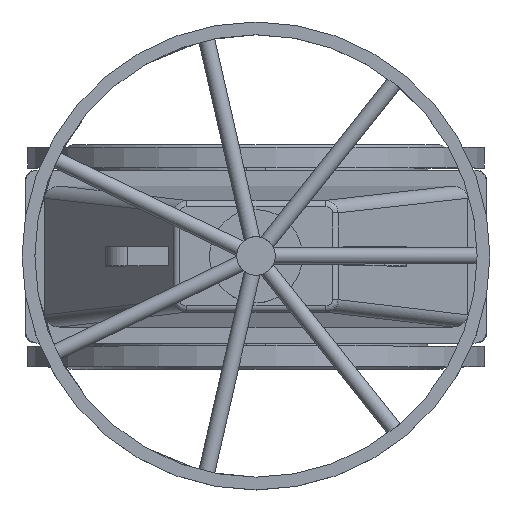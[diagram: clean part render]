
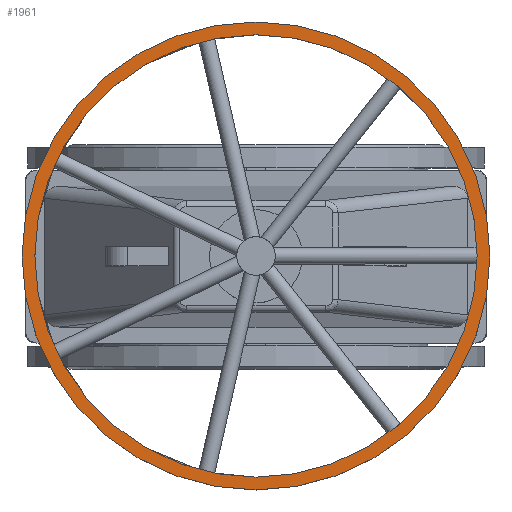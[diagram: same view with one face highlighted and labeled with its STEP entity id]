
A CAD part, top view. The second image highlights one B-rep face of the part: STEP entity #1961.
In plain terms, the highlighted planar face has unit normal (0, 0, 1).
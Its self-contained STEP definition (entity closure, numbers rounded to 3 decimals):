
#1961=ADVANCED_FACE('',(#4900,#4902),#4904,.T.);
#4900=FACE_BOUND('',#4901,.T.);
#4901=EDGE_LOOP('',(#5905));
#4902=FACE_BOUND('',#4903,.T.);
#4903=EDGE_LOOP('',(#5906));
#4904=PLANE('',#4905);
#4905=AXIS2_PLACEMENT_3D('',#4906,#4907,#4908);
#4906=CARTESIAN_POINT('',(0.,0.,1113.5));
#4907=DIRECTION('',(0.,0.,1.));
#4908=DIRECTION('',(0.,-1.,0.));
#5905=ORIENTED_EDGE('',*,*,#6401,.T.);
#5906=ORIENTED_EDGE('',*,*,#6399,.T.);
#6399=EDGE_CURVE('',#7239,#7239,#7240,.F.);
#6401=EDGE_CURVE('',#7243,#7243,#7244,.T.);
#7239=VERTEX_POINT('',#11057);
#7240=CIRCLE('',#11058,345.);
#7243=VERTEX_POINT('',#11067);
#7244=CIRCLE('',#11068,365.);
#11057=CARTESIAN_POINT('',(0.,-345.,1113.5));
#11058=AXIS2_PLACEMENT_3D('',#11059,#11060,#11061);
#11059=CARTESIAN_POINT('',(0.,0.,1113.5));
#11060=DIRECTION('',(0.,0.,1.));
#11061=DIRECTION('',(0.,-1.,0.));
#11067=CARTESIAN_POINT('',(0.,-365.,1113.5));
#11068=AXIS2_PLACEMENT_3D('',#11069,#11070,#11071);
#11069=CARTESIAN_POINT('',(0.,0.,1113.5));
#11070=DIRECTION('',(0.,0.,1.));
#11071=DIRECTION('',(0.,-1.,0.));
